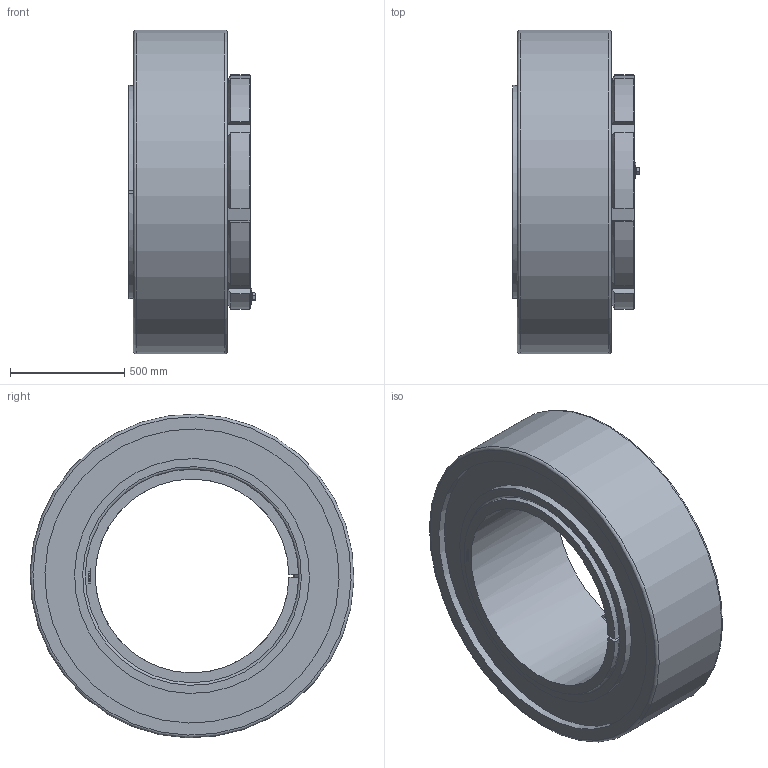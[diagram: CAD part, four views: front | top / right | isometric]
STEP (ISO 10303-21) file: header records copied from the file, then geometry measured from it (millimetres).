
FILE_DESCRIPTION( ( 'STEP AP203' ), ' ' );
FILE_NAME( 'p:/temp/worker_330/4304_4244/app_90_02016102820411208107653192d056f_000000_00_00_000000/format_0/BGL H 31_900 TL+231_900K.stp', '2016-10-28T18:41:14', ( '' ), ( '' ), ' ', 'PARTsolutions', ' ' );
FILE_SCHEMA( ( 'CONFIG_CONTROL_DESIGN' ) );
Length unit declared in the file: millimetre
Products named in the file (6): BGL H 31/900 TL+231/900K; _BGLH31/900TLB; _BGL HM 30/900; _BGLH31/900TL+H-231/900K; _BGL MS 30/850-900part; _BGL MS 30/850-900HHS
Assembly tree (5 placements, depth 2):
  BGL H 31/900 TL+231/900K
    _BGLH31/900TLB
    _BGL HM 30/900
    _BGLH31/900TL+H-231/900K
    _BGL MS 30/850-900part
    _BGL MS 30/850-900HHS
Bounding box: 554.92 x 1419.51 x 1419.51 mm (x, y, z)
Volume: 412388768.1 mm3; surface area: 9459630.3 mm2
Topology: 5 solids, 5 shells, 344 faces, 878 edges, 575 vertices
Faces by surface type: plane 230, cylinder 79, cone 31, torus 4
Full cylindrical faces by diameter (mm): 20 x9, 22 x1, 33.6 x1, 893 x1, 1030 x2, 1290 x2, 1420 x1
Entity records: 10542 total; most frequent: CARTESIAN_POINT 2075, DIRECTION 1693, ORIENTED_EDGE 1680, EDGE_CURVE 840, VERTEX_POINT 571, LINE 567, VECTOR 567, AXIS2_PLACEMENT_3D 563
